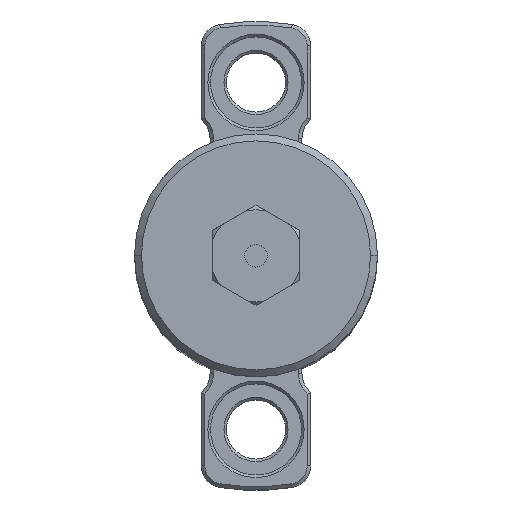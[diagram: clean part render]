
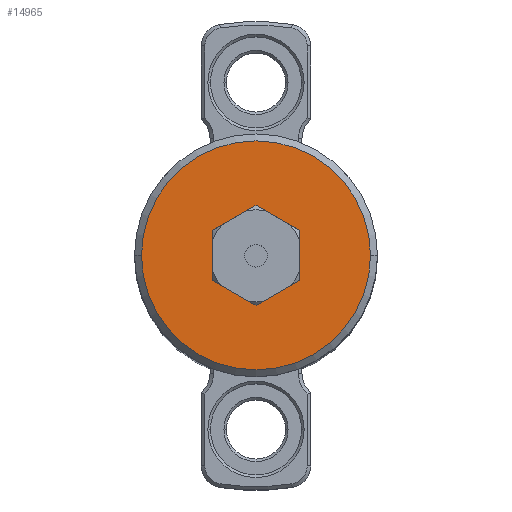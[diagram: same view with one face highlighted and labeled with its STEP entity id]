
A CAD part, top view. The second image highlights one B-rep face of the part: STEP entity #14965.
In plain terms, the highlighted planar face has unit normal (0, 0, 1).
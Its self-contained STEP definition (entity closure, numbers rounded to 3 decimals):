
#167 = FACE_BOUND ( 'NONE', #14445, .T. ) ;
#215 = VERTEX_POINT ( 'NONE', #1463 ) ;
#422 = VECTOR ( 'NONE', #11247, 1000. ) ;
#767 = EDGE_CURVE ( 'NONE', #14890, #17093, #11103, .T. ) ;
#1066 = CARTESIAN_POINT ( 'NONE',  ( -5., -2.887, 0. ) ) ;
#1463 = CARTESIAN_POINT ( 'NONE',  ( 13.2, 0., 0. ) ) ;
#1544 = CARTESIAN_POINT ( 'NONE',  ( 0., -5.774, 0. ) ) ;
#1596 = DIRECTION ( 'NONE',  ( 0., 1., 0. ) ) ;
#1876 = ORIENTED_EDGE ( 'NONE', *, *, #4244, .T. ) ;
#2054 = DIRECTION ( 'NONE',  ( 0., -1., 0. ) ) ;
#2208 = PLANE ( 'NONE',  #6740 ) ;
#2456 = DIRECTION ( 'NONE',  ( 0.866, -0.5, 0. ) ) ;
#2896 = LINE ( 'NONE', #3699, #17159 ) ;
#2980 = VERTEX_POINT ( 'NONE', #6568 ) ;
#3250 = AXIS2_PLACEMENT_3D ( 'NONE', #11951, #3641, #13337 ) ;
#3253 = CARTESIAN_POINT ( 'NONE',  ( -5., -2.887, 0. ) ) ;
#3546 = CARTESIAN_POINT ( 'NONE',  ( -5., 2.887, 0. ) ) ;
#3641 = DIRECTION ( 'NONE',  ( 0., 0., 1. ) ) ;
#3699 = CARTESIAN_POINT ( 'NONE',  ( 5., 2.887, 0. ) ) ;
#3985 = ORIENTED_EDGE ( 'NONE', *, *, #5530, .F. ) ;
#4173 = VERTEX_POINT ( 'NONE', #6168 ) ;
#4244 = EDGE_CURVE ( 'NONE', #215, #14779, #14680, .T. ) ;
#4722 = CARTESIAN_POINT ( 'NONE',  ( -13.2, 0., 0. ) ) ;
#4783 = ORIENTED_EDGE ( 'NONE', *, *, #15003, .T. ) ;
#5016 = DIRECTION ( 'NONE',  ( -1., 0., 0. ) ) ;
#5530 = EDGE_CURVE ( 'NONE', #17093, #2980, #2896, .T. ) ;
#6080 = VERTEX_POINT ( 'NONE', #6908 ) ;
#6168 = CARTESIAN_POINT ( 'NONE',  ( -5., 2.887, 0. ) ) ;
#6472 = ORIENTED_EDGE ( 'NONE', *, *, #13110, .F. ) ;
#6568 = CARTESIAN_POINT ( 'NONE',  ( 0., 5.774, 0. ) ) ;
#6740 = AXIS2_PLACEMENT_3D ( 'NONE', #11933, #13328, #5016 ) ;
#6908 = CARTESIAN_POINT ( 'NONE',  ( 0., -5.774, 0. ) ) ;
#7593 = DIRECTION ( 'NONE',  ( -0.866, -0.5, 0. ) ) ;
#7607 = ORIENTED_EDGE ( 'NONE', *, *, #767, .F. ) ;
#7905 = DIRECTION ( 'NONE',  ( 0., 0., 1. ) ) ;
#8039 = VECTOR ( 'NONE', #2456, 1000. ) ;
#8331 = EDGE_CURVE ( 'NONE', #15426, #6080, #15834, .T. ) ;
#8339 = CARTESIAN_POINT ( 'NONE',  ( 5., 2.887, 0. ) ) ;
#9233 = EDGE_LOOP ( 'NONE', ( #4783, #1876 ) ) ;
#9243 = DIRECTION ( 'NONE',  ( -0.866, 0.5, 0. ) ) ;
#10123 = LINE ( 'NONE', #3546, #12087 ) ;
#10774 = FACE_OUTER_BOUND ( 'NONE', #9233, .T. ) ;
#11041 = LINE ( 'NONE', #1544, #422 ) ;
#11103 = LINE ( 'NONE', #17390, #13923 ) ;
#11203 = EDGE_CURVE ( 'NONE', #2980, #4173, #15421, .T. ) ;
#11247 = DIRECTION ( 'NONE',  ( 0.866, 0.5, 0. ) ) ;
#11405 = AXIS2_PLACEMENT_3D ( 'NONE', #16182, #7905, #17592 ) ;
#11762 = VECTOR ( 'NONE', #7593, 1000. ) ;
#11933 = CARTESIAN_POINT ( 'NONE',  ( 0., 13.2, 0. ) ) ;
#11946 = ORIENTED_EDGE ( 'NONE', *, *, #11203, .F. ) ;
#11951 = CARTESIAN_POINT ( 'NONE',  ( 0., 0., 0. ) ) ;
#12087 = VECTOR ( 'NONE', #2054, 1000. ) ;
#12379 = ORIENTED_EDGE ( 'NONE', *, *, #16004, .F. ) ;
#13110 = EDGE_CURVE ( 'NONE', #6080, #14890, #11041, .T. ) ;
#13328 = DIRECTION ( 'NONE',  ( 0., 0., -1. ) ) ;
#13337 = DIRECTION ( 'NONE',  ( 1., 0., 0. ) ) ;
#13595 = CIRCLE ( 'NONE', #11405, 13.2 ) ;
#13923 = VECTOR ( 'NONE', #1596, 1000. ) ;
#14445 = EDGE_LOOP ( 'NONE', ( #11946, #3985, #7607, #6472, #14624, #12379 ) ) ;
#14624 = ORIENTED_EDGE ( 'NONE', *, *, #8331, .F. ) ;
#14680 = CIRCLE ( 'NONE', #3250, 13.2 ) ;
#14779 = VERTEX_POINT ( 'NONE', #4722 ) ;
#14890 = VERTEX_POINT ( 'NONE', #15950 ) ;
#14965 = ADVANCED_FACE ( 'NONE', ( #167, #10774 ), #2208, .F. ) ;
#15003 = EDGE_CURVE ( 'NONE', #14779, #215, #13595, .T. ) ;
#15421 = LINE ( 'NONE', #16317, #11762 ) ;
#15426 = VERTEX_POINT ( 'NONE', #3253 ) ;
#15834 = LINE ( 'NONE', #1066, #8039 ) ;
#15950 = CARTESIAN_POINT ( 'NONE',  ( 5., -2.887, 0. ) ) ;
#16004 = EDGE_CURVE ( 'NONE', #4173, #15426, #10123, .T. ) ;
#16182 = CARTESIAN_POINT ( 'NONE',  ( 0., 0., 0. ) ) ;
#16317 = CARTESIAN_POINT ( 'NONE',  ( 0., 5.774, 0. ) ) ;
#17093 = VERTEX_POINT ( 'NONE', #8339 ) ;
#17159 = VECTOR ( 'NONE', #9243, 1000. ) ;
#17390 = CARTESIAN_POINT ( 'NONE',  ( 5., -2.887, 0. ) ) ;
#17592 = DIRECTION ( 'NONE',  ( 1., 0., 0. ) ) ;
